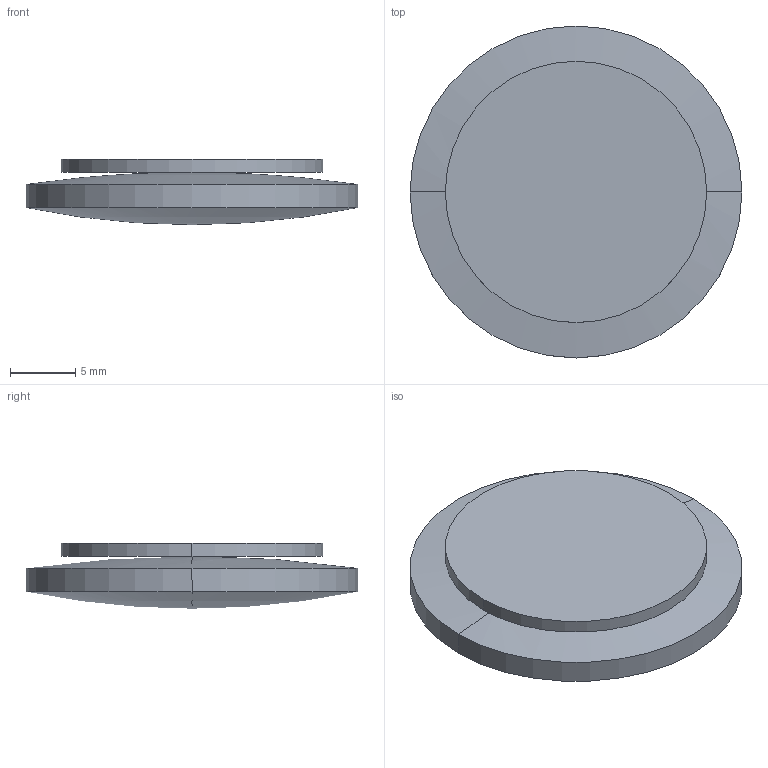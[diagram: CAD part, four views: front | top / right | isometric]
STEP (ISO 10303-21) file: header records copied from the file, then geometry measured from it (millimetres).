
FILE_DESCRIPTION(('STEP AP214'),'1');
FILE_NAME('LLG-25-63.STEP','2020-03-09T17:41:33',(' '),(' '),'Spatial InterOp 3D',' ',' ');
FILE_SCHEMA(('AUTOMOTIVE_DESIGN { 1 0 10303 214 1 1 1 1 }'));
Length unit declared in the file: millimetre
Products named in the file (1): 1
Bounding box: 25.4 x 25.4 x 5 mm (x, y, z)
Volume: 1778.9 mm3; surface area: 1854.2 mm2
Topology: 2 solids, 2 shells, 10 faces, 20 edges, 10 vertices
Faces by surface type: sphere 4, cylinder 4, plane 2
Entity records: 255 total; most frequent: DIRECTION 52, CARTESIAN_POINT 38, ORIENTED_EDGE 32, AXIS2_PLACEMENT_3D 24, EDGE_CURVE 16, CIRCLE 12, ADVANCED_FACE 10, FACE_OUTER_BOUND 10
